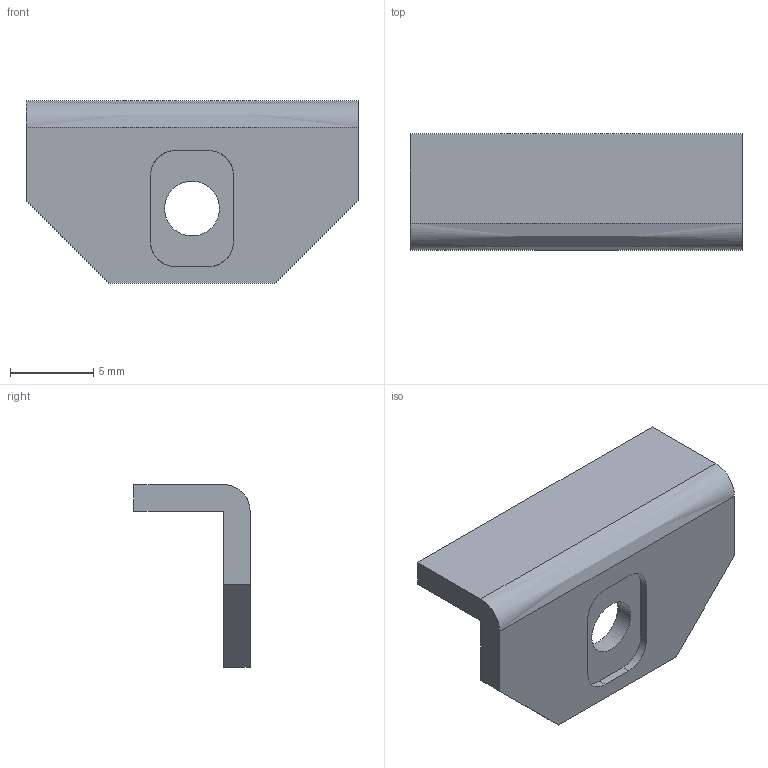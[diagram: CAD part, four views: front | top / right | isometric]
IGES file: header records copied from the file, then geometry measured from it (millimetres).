
Start section:  PTC IGES file: 022798_cpum-02.igs
Global section: file name: 022798_cpum-02.igs; native system: Pro/ENGINEER by Parametric Technology Corporation; preprocessor: 2004090; author: KAIHATSU01; organization: Unknown; date: 061017.093201; units: millimetre
Bounding box: 20 x 7 x 11 mm (x, y, z)
Volume: 447.8 mm3; surface area: 703.3 mm2
Topology: 1 solids, 1 shells, 22 faces, 57 edges, 38 vertices
Faces by surface type: bspline 22
